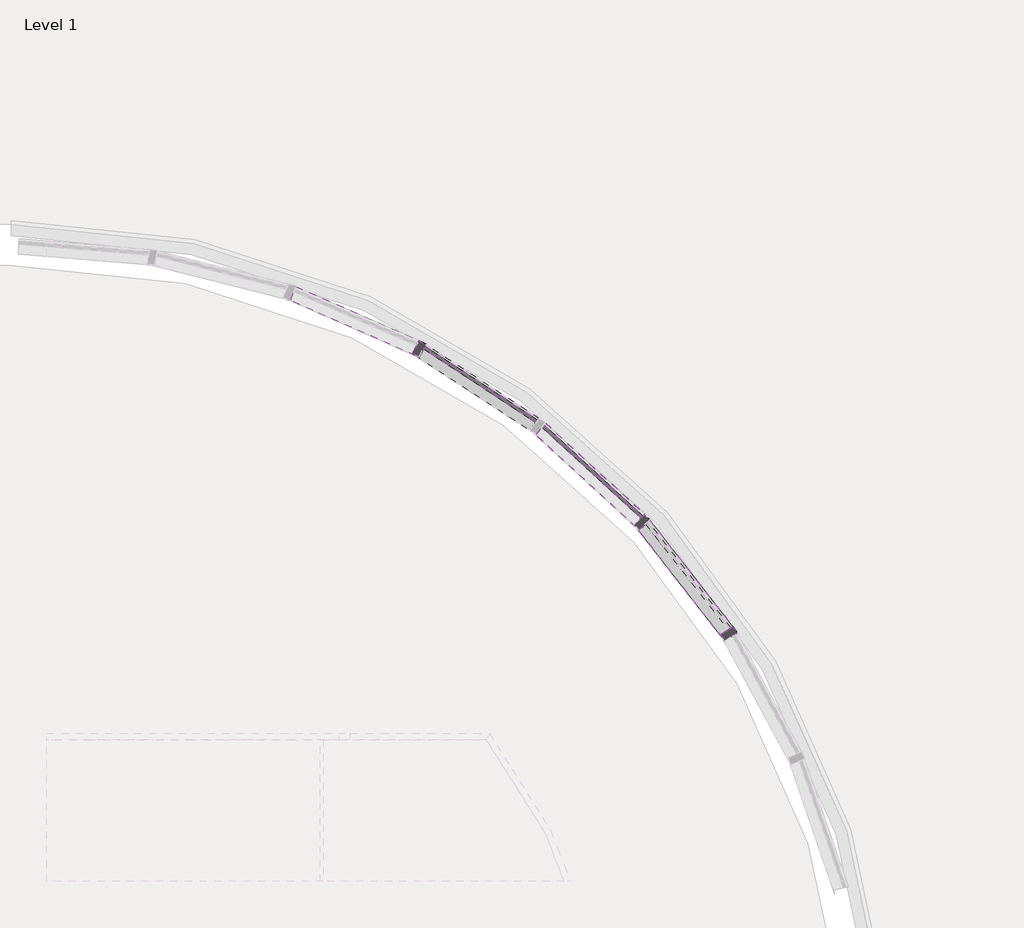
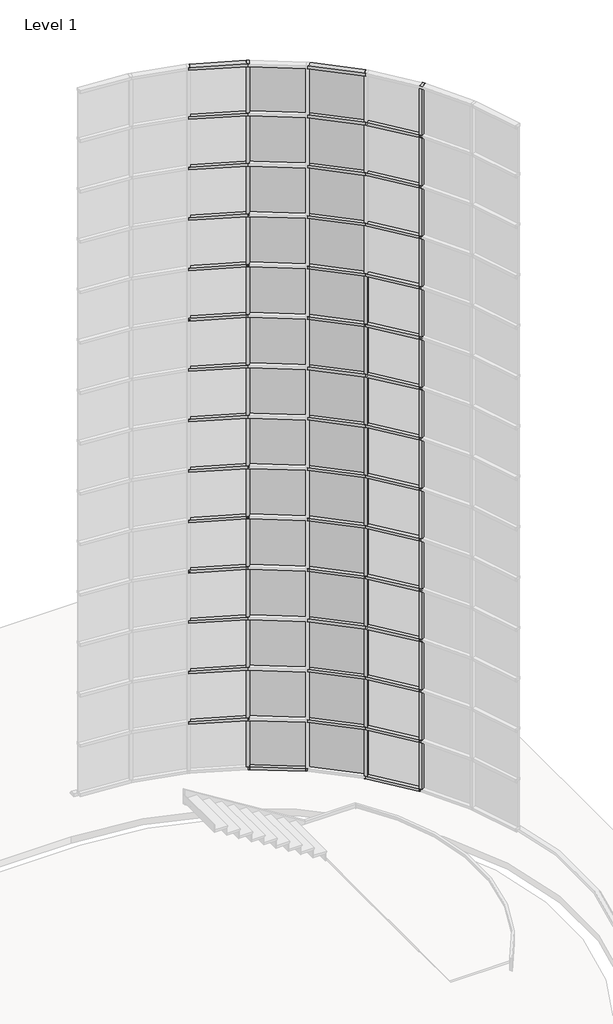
# One storey, part 13 of 20: 81 members, 28 plates.
"""IFC4 building model written with IfcOpenShell, lengths in millimetres."""

from ifc_helpers import new_model, si_unit, origin, place, context, project, spatial, transform, mapped, element, save
from components import member_68fe8548, member_f830fa99, member_935f61b8, system_panel_glazed_da602fa6, system_panel_glazed_77fd207e

model = new_model("IFC4")

# Units and contexts
model_context = context("Model", 3, world=origin())
ifc_project = project(units=[si_unit("LENGTHUNIT", "METRE", prefix="MILLI")], contexts=[model_context])

# Site, building, storey
site = spatial("IfcSite", under=ifc_project)
building = spatial("IfcBuilding", under=site)
storey = spatial("IfcBuildingStorey", under=building, Name="Level 1", Elevation=0.0)

# Members
placement = place(None, origin())
member_shape = member_68fe8548(model_context)
element("IfcMember", 1, ObjectType="Rectangular Mullion : 2.5\" x 5\" rectangular", at=placement, inside=storey, context=model_context, shape_type="MappedRepresentation", body=[
    mapped(member_shape, transform((21306.6406628, 3785.4957758, 17983.2), x_axis=(0.0, 0.0, 1.0), y_axis=(-0.40169542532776, -0.9157733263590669, 0.0), z_axis=(0.9157733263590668, -0.4016954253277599, 0.0))),
])
element("IfcMember", 2, ObjectType="Rectangular Mullion : 2.5\" x 5\" rectangular", at=placement, inside=storey, context=model_context, shape_type="MappedRepresentation", body=[
    mapped(member_shape, transform((23166.898542, 2350.7981932, 17983.2), x_axis=(0.0, 0.0, 1.0), y_axis=(-0.6772815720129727, -0.7357239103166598, 0.0), z_axis=(0.7357239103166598, -0.6772815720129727, 0.0))),
])
element("IfcMember", 3, ObjectType="Rectangular Mullion : 2.5\" x 5\" rectangular", at=placement, inside=storey, context=model_context, shape_type="MappedRepresentation", body=[
    mapped(member_shape, transform((21362.2965016, 3755.376342, 1092.2), x_axis=(0.0, 0.0, -1.0), y_axis=(-0.5469481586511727, -0.8371664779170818, 0.0), z_axis=(-0.8371664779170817, 0.5469481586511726, 0.0))),
])
element("IfcMember", 4, ObjectType="Rectangular Mullion : 2.5\" x 5\" rectangular", at=placement, inside=storey, context=model_context, shape_type="MappedRepresentation", body=[
    mapped(member_shape, transform((23209.7590298, 2304.2392921, 1092.2), x_axis=(0.0, 0.0, -1.0), y_axis=(-0.789140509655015, -0.614212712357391, 0.0), z_axis=(-0.614212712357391, 0.789140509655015, 0.0))),
])
member_2_shape = member_f830fa99(model_context)
element("IfcMember", 5, ObjectType="Rectangular Mullion : 2.5\" x 5\" rectangular", at=placement, inside=storey, context=model_context, shape_type="MappedRepresentation", body=[
    mapped(member_2_shape, transform((21306.6406628, 3785.4957758, 2298.7), x_axis=(0.0, 0.0, 1.0), y_axis=(-0.40169542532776, -0.9157733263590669, 0.0), z_axis=(0.9157733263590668, -0.4016954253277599, 0.0))),
])
element("IfcMember", 6, ObjectType="Rectangular Mullion : 2.5\" x 5\" rectangular", at=placement, inside=storey, context=model_context, shape_type="MappedRepresentation", body=[
    mapped(member_2_shape, transform((23166.898542, 2350.7981932, 2298.7), x_axis=(0.0, 0.0, 1.0), y_axis=(-0.6772815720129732, -0.7357239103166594, 0.0), z_axis=(0.7357239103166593, -0.6772815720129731, 0.0))),
])
element("IfcMember", 7, ObjectType="Rectangular Mullion : 2.5\" x 5\" rectangular", at=placement, inside=storey, context=model_context, shape_type="MappedRepresentation", body=[
    mapped(member_2_shape, transform((23894.9537437, 1423.9011049, 2298.7), x_axis=(0.0, 0.0, 1.0), y_axis=(-0.7891405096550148, -0.6142127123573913, 0.0), z_axis=(0.6142127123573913, -0.7891405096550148, 0.0))),
])
element("IfcMember", 8, ObjectType="Rectangular Mullion : 2.5\" x 5\" rectangular", at=placement, inside=storey, context=model_context, shape_type="MappedRepresentation", body=[
    mapped(member_2_shape, transform((21306.6406628, 3785.4957758, 3505.2), x_axis=(0.0, 0.0, 1.0), y_axis=(-0.40169542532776, -0.9157733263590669, 0.0), z_axis=(0.9157733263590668, -0.4016954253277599, 0.0))),
])
element("IfcMember", 9, ObjectType="Rectangular Mullion : 2.5\" x 5\" rectangular", at=placement, inside=storey, context=model_context, shape_type="MappedRepresentation", body=[
    mapped(member_2_shape, transform((23166.898542, 2350.7981932, 3505.2), x_axis=(0.0, 0.0, 1.0), y_axis=(-0.6772815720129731, -0.7357239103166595, 0.0), z_axis=(0.7357239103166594, -0.677281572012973, 0.0))),
])
element("IfcMember", 10, ObjectType="Rectangular Mullion : 2.5\" x 5\" rectangular", at=placement, inside=storey, context=model_context, shape_type="MappedRepresentation", body=[
    mapped(member_2_shape, transform((23894.9537437, 1423.9011049, 3505.2), x_axis=(0.0, 0.0, 1.0), y_axis=(-0.7891405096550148, -0.6142127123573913, 0.0), z_axis=(0.6142127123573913, -0.7891405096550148, 0.0))),
])
element("IfcMember", 11, ObjectType="Rectangular Mullion : 2.5\" x 5\" rectangular", at=placement, inside=storey, context=model_context, shape_type="MappedRepresentation", body=[
    mapped(member_2_shape, transform((21306.6406628, 3785.4957758, 4711.7), x_axis=(0.0, 0.0, 1.0), y_axis=(-0.40169542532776, -0.9157733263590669, 0.0), z_axis=(0.9157733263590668, -0.4016954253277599, 0.0))),
])
element("IfcMember", 12, ObjectType="Rectangular Mullion : 2.5\" x 5\" rectangular", at=placement, inside=storey, context=model_context, shape_type="MappedRepresentation", body=[
    mapped(member_2_shape, transform((23166.898542, 2350.7981932, 4711.7), x_axis=(0.0, 0.0, 1.0), y_axis=(-0.6772815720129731, -0.7357239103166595, 0.0), z_axis=(0.7357239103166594, -0.677281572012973, 0.0))),
])
element("IfcMember", 13, ObjectType="Rectangular Mullion : 2.5\" x 5\" rectangular", at=placement, inside=storey, context=model_context, shape_type="MappedRepresentation", body=[
    mapped(member_2_shape, transform((23894.9537437, 1423.9011049, 4711.7), x_axis=(0.0, 0.0, 1.0), y_axis=(-0.7891405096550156, -0.6142127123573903, 0.0), z_axis=(0.6142127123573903, -0.7891405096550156, 0.0))),
])
element("IfcMember", 14, ObjectType="Rectangular Mullion : 2.5\" x 5\" rectangular", at=placement, inside=storey, context=model_context, shape_type="MappedRepresentation", body=[
    mapped(member_2_shape, transform((21306.6406628, 3785.4957758, 5918.2), x_axis=(0.0, 0.0, 1.0), y_axis=(-0.40169542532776, -0.9157733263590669, 0.0), z_axis=(0.9157733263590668, -0.4016954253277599, 0.0))),
])
element("IfcMember", 15, ObjectType="Rectangular Mullion : 2.5\" x 5\" rectangular", at=placement, inside=storey, context=model_context, shape_type="MappedRepresentation", body=[
    mapped(member_2_shape, transform((23166.898542, 2350.7981932, 5918.2), x_axis=(0.0, 0.0, 1.0), y_axis=(-0.6772815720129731, -0.7357239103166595, 0.0), z_axis=(0.7357239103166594, -0.677281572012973, 0.0))),
])
element("IfcMember", 16, ObjectType="Rectangular Mullion : 2.5\" x 5\" rectangular", at=placement, inside=storey, context=model_context, shape_type="MappedRepresentation", body=[
    mapped(member_2_shape, transform((23894.9537437, 1423.9011049, 5918.2), x_axis=(0.0, 0.0, 1.0), y_axis=(-0.7891405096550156, -0.6142127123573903, 0.0), z_axis=(0.6142127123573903, -0.7891405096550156, 0.0))),
])
element("IfcMember", 17, ObjectType="Rectangular Mullion : 2.5\" x 5\" rectangular", at=placement, inside=storey, context=model_context, shape_type="MappedRepresentation", body=[
    mapped(member_2_shape, transform((21306.6406628, 3785.4957758, 7124.7), x_axis=(0.0, 0.0, 1.0), y_axis=(-0.40169542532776, -0.9157733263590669, 0.0), z_axis=(0.9157733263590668, -0.4016954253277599, 0.0))),
])
element("IfcMember", 18, ObjectType="Rectangular Mullion : 2.5\" x 5\" rectangular", at=placement, inside=storey, context=model_context, shape_type="MappedRepresentation", body=[
    mapped(member_2_shape, transform((23166.898542, 2350.7981932, 7124.7), x_axis=(0.0, 0.0, 1.0), y_axis=(-0.6772815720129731, -0.7357239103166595, 0.0), z_axis=(0.7357239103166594, -0.677281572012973, 0.0))),
])
element("IfcMember", 19, ObjectType="Rectangular Mullion : 2.5\" x 5\" rectangular", at=placement, inside=storey, context=model_context, shape_type="MappedRepresentation", body=[
    mapped(member_2_shape, transform((23894.9537437, 1423.9011049, 7124.7), x_axis=(0.0, 0.0, 1.0), y_axis=(-0.7891405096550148, -0.6142127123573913, 0.0), z_axis=(0.6142127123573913, -0.7891405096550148, 0.0))),
])
element("IfcMember", 20, ObjectType="Rectangular Mullion : 2.5\" x 5\" rectangular", at=placement, inside=storey, context=model_context, shape_type="MappedRepresentation", body=[
    mapped(member_2_shape, transform((21306.6406628, 3785.4957758, 8331.2), x_axis=(0.0, 0.0, 1.0), y_axis=(-0.40169542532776, -0.9157733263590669, 0.0), z_axis=(0.9157733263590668, -0.4016954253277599, 0.0))),
])
element("IfcMember", 21, ObjectType="Rectangular Mullion : 2.5\" x 5\" rectangular", at=placement, inside=storey, context=model_context, shape_type="MappedRepresentation", body=[
    mapped(member_2_shape, transform((23166.898542, 2350.7981932, 8331.2), x_axis=(0.0, 0.0, 1.0), y_axis=(-0.6772815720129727, -0.7357239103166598, 0.0), z_axis=(0.7357239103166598, -0.6772815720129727, 0.0))),
])
element("IfcMember", 22, ObjectType="Rectangular Mullion : 2.5\" x 5\" rectangular", at=placement, inside=storey, context=model_context, shape_type="MappedRepresentation", body=[
    mapped(member_2_shape, transform((23894.9537437, 1423.9011049, 8331.2), x_axis=(0.0, 0.0, 1.0), y_axis=(-0.7891405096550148, -0.6142127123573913, 0.0), z_axis=(0.6142127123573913, -0.7891405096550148, 0.0))),
])
element("IfcMember", 23, ObjectType="Rectangular Mullion : 2.5\" x 5\" rectangular", at=placement, inside=storey, context=model_context, shape_type="MappedRepresentation", body=[
    mapped(member_2_shape, transform((21306.6406628, 3785.4957758, 9537.7), x_axis=(0.0, 0.0, 1.0), y_axis=(-0.40169542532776, -0.9157733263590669, 0.0), z_axis=(0.9157733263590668, -0.4016954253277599, 0.0))),
])
element("IfcMember", 24, ObjectType="Rectangular Mullion : 2.5\" x 5\" rectangular", at=placement, inside=storey, context=model_context, shape_type="MappedRepresentation", body=[
    mapped(member_2_shape, transform((23166.898542, 2350.7981932, 9537.7), x_axis=(0.0, 0.0, 1.0), y_axis=(-0.6772815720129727, -0.7357239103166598, 0.0), z_axis=(0.7357239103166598, -0.6772815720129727, 0.0))),
])
element("IfcMember", 25, ObjectType="Rectangular Mullion : 2.5\" x 5\" rectangular", at=placement, inside=storey, context=model_context, shape_type="MappedRepresentation", body=[
    mapped(member_2_shape, transform((23894.9537437, 1423.9011049, 9537.7), x_axis=(0.0, 0.0, 1.0), y_axis=(-0.7891405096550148, -0.6142127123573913, 0.0), z_axis=(0.6142127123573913, -0.7891405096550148, 0.0))),
])
element("IfcMember", 26, ObjectType="Rectangular Mullion : 2.5\" x 5\" rectangular", at=placement, inside=storey, context=model_context, shape_type="MappedRepresentation", body=[
    mapped(member_2_shape, transform((21306.6406628, 3785.4957758, 10744.2), x_axis=(0.0, 0.0, 1.0), y_axis=(-0.40169542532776, -0.9157733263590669, 0.0), z_axis=(0.9157733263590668, -0.4016954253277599, 0.0))),
])
element("IfcMember", 27, ObjectType="Rectangular Mullion : 2.5\" x 5\" rectangular", at=placement, inside=storey, context=model_context, shape_type="MappedRepresentation", body=[
    mapped(member_2_shape, transform((23166.898542, 2350.7981932, 10744.2), x_axis=(0.0, 0.0, 1.0), y_axis=(-0.677281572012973, -0.7357239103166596, 0.0), z_axis=(0.7357239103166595, -0.6772815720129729, 0.0))),
])
element("IfcMember", 28, ObjectType="Rectangular Mullion : 2.5\" x 5\" rectangular", at=placement, inside=storey, context=model_context, shape_type="MappedRepresentation", body=[
    mapped(member_2_shape, transform((23894.9537437, 1423.9011049, 10744.2), x_axis=(0.0, 0.0, 1.0), y_axis=(-0.7891405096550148, -0.6142127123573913, 0.0), z_axis=(0.6142127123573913, -0.7891405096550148, 0.0))),
])
element("IfcMember", 29, ObjectType="Rectangular Mullion : 2.5\" x 5\" rectangular", at=placement, inside=storey, context=model_context, shape_type="MappedRepresentation", body=[
    mapped(member_2_shape, transform((21306.6406628, 3785.4957758, 11950.7), x_axis=(0.0, 0.0, 1.0), y_axis=(-0.40169542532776, -0.9157733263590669, 0.0), z_axis=(0.9157733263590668, -0.4016954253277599, 0.0))),
])
element("IfcMember", 30, ObjectType="Rectangular Mullion : 2.5\" x 5\" rectangular", at=placement, inside=storey, context=model_context, shape_type="MappedRepresentation", body=[
    mapped(member_2_shape, transform((23166.898542, 2350.7981932, 11950.7), x_axis=(0.0, 0.0, 1.0), y_axis=(-0.6772815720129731, -0.7357239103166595, 0.0), z_axis=(0.7357239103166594, -0.677281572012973, 0.0))),
])
element("IfcMember", 31, ObjectType="Rectangular Mullion : 2.5\" x 5\" rectangular", at=placement, inside=storey, context=model_context, shape_type="MappedRepresentation", body=[
    mapped(member_2_shape, transform((23894.9537437, 1423.9011049, 11950.7), x_axis=(0.0, 0.0, 1.0), y_axis=(-0.7891405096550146, -0.6142127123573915, 0.0), z_axis=(0.6142127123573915, -0.7891405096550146, 0.0))),
])
element("IfcMember", 32, ObjectType="Rectangular Mullion : 2.5\" x 5\" rectangular", at=placement, inside=storey, context=model_context, shape_type="MappedRepresentation", body=[
    mapped(member_2_shape, transform((21306.6406628, 3785.4957758, 13157.2), x_axis=(0.0, 0.0, 1.0), y_axis=(-0.40169542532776, -0.9157733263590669, 0.0), z_axis=(0.9157733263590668, -0.4016954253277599, 0.0))),
])
element("IfcMember", 33, ObjectType="Rectangular Mullion : 2.5\" x 5\" rectangular", at=placement, inside=storey, context=model_context, shape_type="MappedRepresentation", body=[
    mapped(member_2_shape, transform((23166.898542, 2350.7981932, 13157.2), x_axis=(0.0, 0.0, 1.0), y_axis=(-0.6772815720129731, -0.7357239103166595, 0.0), z_axis=(0.7357239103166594, -0.677281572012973, 0.0))),
])
element("IfcMember", 34, ObjectType="Rectangular Mullion : 2.5\" x 5\" rectangular", at=placement, inside=storey, context=model_context, shape_type="MappedRepresentation", body=[
    mapped(member_2_shape, transform((23894.9537437, 1423.9011049, 13157.2), x_axis=(0.0, 0.0, 1.0), y_axis=(-0.7891405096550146, -0.6142127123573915, 0.0), z_axis=(0.6142127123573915, -0.7891405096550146, 0.0))),
])
element("IfcMember", 35, ObjectType="Rectangular Mullion : 2.5\" x 5\" rectangular", at=placement, inside=storey, context=model_context, shape_type="MappedRepresentation", body=[
    mapped(member_2_shape, transform((21306.6406628, 3785.4957758, 14363.7), x_axis=(0.0, 0.0, 1.0), y_axis=(-0.40169542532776, -0.9157733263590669, 0.0), z_axis=(0.9157733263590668, -0.4016954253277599, 0.0))),
])
element("IfcMember", 36, ObjectType="Rectangular Mullion : 2.5\" x 5\" rectangular", at=placement, inside=storey, context=model_context, shape_type="MappedRepresentation", body=[
    mapped(member_2_shape, transform((23166.898542, 2350.7981932, 14363.7), x_axis=(0.0, 0.0, 1.0), y_axis=(-0.6772815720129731, -0.7357239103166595, 0.0), z_axis=(0.7357239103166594, -0.677281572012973, 0.0))),
])
element("IfcMember", 37, ObjectType="Rectangular Mullion : 2.5\" x 5\" rectangular", at=placement, inside=storey, context=model_context, shape_type="MappedRepresentation", body=[
    mapped(member_2_shape, transform((23894.9537437, 1423.9011049, 14363.7), x_axis=(0.0, 0.0, 1.0), y_axis=(-0.7891405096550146, -0.6142127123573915, 0.0), z_axis=(0.6142127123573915, -0.7891405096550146, 0.0))),
])
element("IfcMember", 38, ObjectType="Rectangular Mullion : 2.5\" x 5\" rectangular", at=placement, inside=storey, context=model_context, shape_type="MappedRepresentation", body=[
    mapped(member_2_shape, transform((21306.6406628, 3785.4957758, 15570.2), x_axis=(0.0, 0.0, 1.0), y_axis=(-0.40169542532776, -0.9157733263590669, 0.0), z_axis=(0.9157733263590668, -0.4016954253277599, 0.0))),
])
element("IfcMember", 39, ObjectType="Rectangular Mullion : 2.5\" x 5\" rectangular", at=placement, inside=storey, context=model_context, shape_type="MappedRepresentation", body=[
    mapped(member_2_shape, transform((23166.898542, 2350.7981932, 15570.2), x_axis=(0.0, 0.0, 1.0), y_axis=(-0.6772815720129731, -0.7357239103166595, 0.0), z_axis=(0.7357239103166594, -0.677281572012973, 0.0))),
])
element("IfcMember", 40, ObjectType="Rectangular Mullion : 2.5\" x 5\" rectangular", at=placement, inside=storey, context=model_context, shape_type="MappedRepresentation", body=[
    mapped(member_2_shape, transform((23894.9537437, 1423.9011049, 15570.2), x_axis=(0.0, 0.0, 1.0), y_axis=(-0.7891405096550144, -0.6142127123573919, 0.0), z_axis=(0.6142127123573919, -0.7891405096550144, 0.0))),
])
element("IfcMember", 41, ObjectType="Rectangular Mullion : 2.5\" x 5\" rectangular", at=placement, inside=storey, context=model_context, shape_type="MappedRepresentation", body=[
    mapped(member_2_shape, transform((21306.6406628, 3785.4957758, 16776.7), x_axis=(0.0, 0.0, 1.0), y_axis=(-0.40169542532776, -0.9157733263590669, 0.0), z_axis=(0.9157733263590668, -0.4016954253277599, 0.0))),
])
element("IfcMember", 42, ObjectType="Rectangular Mullion : 2.5\" x 5\" rectangular", at=placement, inside=storey, context=model_context, shape_type="MappedRepresentation", body=[
    mapped(member_2_shape, transform((23166.898542, 2350.7981932, 16776.7), x_axis=(0.0, 0.0, 1.0), y_axis=(-0.6772815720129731, -0.7357239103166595, 0.0), z_axis=(0.7357239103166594, -0.677281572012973, 0.0))),
])
element("IfcMember", 43, ObjectType="Rectangular Mullion : 2.5\" x 5\" rectangular", at=placement, inside=storey, context=model_context, shape_type="MappedRepresentation", body=[
    mapped(member_2_shape, transform((23894.9537437, 1423.9011049, 16776.7), x_axis=(0.0, 0.0, 1.0), y_axis=(-0.7891405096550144, -0.6142127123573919, 0.0), z_axis=(0.6142127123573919, -0.7891405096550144, 0.0))),
])
member_3_shape = member_935f61b8(model_context)
element("IfcMember", 44, ObjectType="Rectangular Mullion : 2.5\" x 5\" rectangular", at=placement, inside=storey, context=model_context, shape_type="MappedRepresentation", body=[
    mapped(member_3_shape, transform((21335.7164659, 3772.741946, 1092.2), x_axis=(0.8794737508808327, -0.4759473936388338, 0.0), y_axis=(-0.4759473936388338, -0.8794737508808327, 0.0), z_axis=(0.0, 0.0, -1.0))),
])
element("IfcMember", 45, ObjectType="Rectangular Mullion : 2.5\" x 5\" rectangular", at=placement, inside=storey, context=model_context, shape_type="MappedRepresentation", body=[
    mapped(member_3_shape, transform((23190.2577761, 2329.2945033, 1092.2), x_axis=(0.6772815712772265, -0.7357239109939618, 0.0), y_axis=(-0.7357239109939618, -0.6772815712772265, 0.0), z_axis=(0.0, 0.0, -1.0))),
])
element("IfcMember", 46, ObjectType="Rectangular Mullion : 2.5\" x 5\" rectangular", at=placement, inside=storey, context=model_context, shape_type="MappedRepresentation", body=[
    mapped(member_3_shape, transform((23914.4549973, 1398.8458937, 1092.2), x_axis=(0.5469481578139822, -0.8371664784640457, 0.0), y_axis=(-0.8371664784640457, -0.5469481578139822, 0.0), z_axis=(0.0, 0.0, -1.0))),
])
element("IfcMember", 47, ObjectType="Rectangular Mullion : 2.5\" x 5\" rectangular", at=placement, inside=storey, context=model_context, shape_type="MappedRepresentation", body=[
    mapped(member_3_shape, transform((21335.7164659, 3772.741946, 2298.7), x_axis=(0.8794737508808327, -0.4759473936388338, 0.0), y_axis=(-0.4759473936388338, -0.8794737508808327, 0.0), z_axis=(0.0, 0.0, -1.0))),
])
element("IfcMember", 48, ObjectType="Rectangular Mullion : 2.5\" x 5\" rectangular", at=placement, inside=storey, context=model_context, shape_type="MappedRepresentation", body=[
    mapped(member_3_shape, transform((23190.2577761, 2329.2945033, 2298.7), x_axis=(0.6772815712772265, -0.7357239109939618, 0.0), y_axis=(-0.7357239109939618, -0.6772815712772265, 0.0), z_axis=(0.0, 0.0, -1.0))),
])
element("IfcMember", 49, ObjectType="Rectangular Mullion : 2.5\" x 5\" rectangular", at=placement, inside=storey, context=model_context, shape_type="MappedRepresentation", body=[
    mapped(member_3_shape, transform((23914.4549973, 1398.8458937, 2298.7), x_axis=(0.5469481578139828, -0.8371664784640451, 0.0), y_axis=(-0.8371664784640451, -0.5469481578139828, 0.0), z_axis=(0.0, 0.0, -1.0))),
])
element("IfcMember", 50, ObjectType="Rectangular Mullion : 2.5\" x 5\" rectangular", at=placement, inside=storey, context=model_context, shape_type="MappedRepresentation", body=[
    mapped(member_3_shape, transform((21335.7164659, 3772.741946, 3505.2), x_axis=(0.8794737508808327, -0.4759473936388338, 0.0), y_axis=(-0.4759473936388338, -0.8794737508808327, 0.0), z_axis=(0.0, 0.0, -1.0))),
])
element("IfcMember", 51, ObjectType="Rectangular Mullion : 2.5\" x 5\" rectangular", at=placement, inside=storey, context=model_context, shape_type="MappedRepresentation", body=[
    mapped(member_3_shape, transform((23190.2577761, 2329.2945033, 3505.2), x_axis=(0.6772815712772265, -0.7357239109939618, 0.0), y_axis=(-0.7357239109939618, -0.6772815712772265, 0.0), z_axis=(0.0, 0.0, -1.0))),
])
element("IfcMember", 52, ObjectType="Rectangular Mullion : 2.5\" x 5\" rectangular", at=placement, inside=storey, context=model_context, shape_type="MappedRepresentation", body=[
    mapped(member_3_shape, transform((23914.4549973, 1398.8458937, 3505.2), x_axis=(0.5469481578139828, -0.8371664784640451, 0.0), y_axis=(-0.8371664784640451, -0.5469481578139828, 0.0), z_axis=(0.0, 0.0, -1.0))),
])
element("IfcMember", 53, ObjectType="Rectangular Mullion : 2.5\" x 5\" rectangular", at=placement, inside=storey, context=model_context, shape_type="MappedRepresentation", body=[
    mapped(member_3_shape, transform((21335.7164659, 3772.741946, 4711.7), x_axis=(0.8794737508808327, -0.4759473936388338, 0.0), y_axis=(-0.4759473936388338, -0.8794737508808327, 0.0), z_axis=(0.0, 0.0, -1.0))),
])
element("IfcMember", 54, ObjectType="Rectangular Mullion : 2.5\" x 5\" rectangular", at=placement, inside=storey, context=model_context, shape_type="MappedRepresentation", body=[
    mapped(member_3_shape, transform((23190.2577761, 2329.2945033, 4711.7), x_axis=(0.6772815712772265, -0.7357239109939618, 0.0), y_axis=(-0.7357239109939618, -0.6772815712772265, 0.0), z_axis=(0.0, 0.0, -1.0))),
])
element("IfcMember", 55, ObjectType="Rectangular Mullion : 2.5\" x 5\" rectangular", at=placement, inside=storey, context=model_context, shape_type="MappedRepresentation", body=[
    mapped(member_3_shape, transform((23914.4549973, 1398.8458937, 4711.7), x_axis=(0.5469481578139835, -0.8371664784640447, 0.0), y_axis=(-0.8371664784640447, -0.5469481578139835, 0.0), z_axis=(0.0, 0.0, -1.0))),
])
element("IfcMember", 56, ObjectType="Rectangular Mullion : 2.5\" x 5\" rectangular", at=placement, inside=storey, context=model_context, shape_type="MappedRepresentation", body=[
    mapped(member_3_shape, transform((21335.7164659, 3772.741946, 5918.2), x_axis=(0.8794737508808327, -0.4759473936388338, 0.0), y_axis=(-0.4759473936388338, -0.8794737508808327, 0.0), z_axis=(0.0, 0.0, -1.0))),
])
element("IfcMember", 57, ObjectType="Rectangular Mullion : 2.5\" x 5\" rectangular", at=placement, inside=storey, context=model_context, shape_type="MappedRepresentation", body=[
    mapped(member_3_shape, transform((23190.2577761, 2329.2945033, 5918.2), x_axis=(0.6772815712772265, -0.7357239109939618, 0.0), y_axis=(-0.7357239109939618, -0.6772815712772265, 0.0), z_axis=(0.0, 0.0, -1.0))),
])
element("IfcMember", 58, ObjectType="Rectangular Mullion : 2.5\" x 5\" rectangular", at=placement, inside=storey, context=model_context, shape_type="MappedRepresentation", body=[
    mapped(member_3_shape, transform((23914.4549973, 1398.8458937, 5918.2), x_axis=(0.5469481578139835, -0.8371664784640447, 0.0), y_axis=(-0.8371664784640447, -0.5469481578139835, 0.0), z_axis=(0.0, 0.0, -1.0))),
])
element("IfcMember", 59, ObjectType="Rectangular Mullion : 2.5\" x 5\" rectangular", at=placement, inside=storey, context=model_context, shape_type="MappedRepresentation", body=[
    mapped(member_3_shape, transform((21335.7164659, 3772.741946, 7124.7), x_axis=(0.8794737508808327, -0.4759473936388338, 0.0), y_axis=(-0.4759473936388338, -0.8794737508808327, 0.0), z_axis=(0.0, 0.0, -1.0))),
])
element("IfcMember", 60, ObjectType="Rectangular Mullion : 2.5\" x 5\" rectangular", at=placement, inside=storey, context=model_context, shape_type="MappedRepresentation", body=[
    mapped(member_3_shape, transform((23190.2577761, 2329.2945033, 7124.7), x_axis=(0.6772815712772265, -0.7357239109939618, 0.0), y_axis=(-0.7357239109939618, -0.6772815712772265, 0.0), z_axis=(0.0, 0.0, -1.0))),
])
element("IfcMember", 61, ObjectType="Rectangular Mullion : 2.5\" x 5\" rectangular", at=placement, inside=storey, context=model_context, shape_type="MappedRepresentation", body=[
    mapped(member_3_shape, transform((23914.4549973, 1398.8458937, 7124.7), x_axis=(0.5469481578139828, -0.8371664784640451, 0.0), y_axis=(-0.8371664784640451, -0.5469481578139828, 0.0), z_axis=(0.0, 0.0, -1.0))),
])
element("IfcMember", 62, ObjectType="Rectangular Mullion : 2.5\" x 5\" rectangular", at=placement, inside=storey, context=model_context, shape_type="MappedRepresentation", body=[
    mapped(member_3_shape, transform((21335.7164659, 3772.741946, 8331.2), x_axis=(0.8794737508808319, -0.4759473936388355, 0.0), y_axis=(-0.4759473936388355, -0.8794737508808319, 0.0), z_axis=(0.0, 0.0, -1.0))),
])
element("IfcMember", 63, ObjectType="Rectangular Mullion : 2.5\" x 5\" rectangular", at=placement, inside=storey, context=model_context, shape_type="MappedRepresentation", body=[
    mapped(member_3_shape, transform((23190.2577761, 2329.2945033, 8331.2), x_axis=(0.6772815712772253, -0.7357239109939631, 0.0), y_axis=(-0.7357239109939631, -0.6772815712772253, 0.0), z_axis=(0.0, 0.0, -1.0))),
])
element("IfcMember", 64, ObjectType="Rectangular Mullion : 2.5\" x 5\" rectangular", at=placement, inside=storey, context=model_context, shape_type="MappedRepresentation", body=[
    mapped(member_3_shape, transform((23914.4549973, 1398.8458937, 8331.2), x_axis=(0.5469481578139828, -0.8371664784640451, 0.0), y_axis=(-0.8371664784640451, -0.5469481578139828, 0.0), z_axis=(0.0, 0.0, -1.0))),
])
element("IfcMember", 65, ObjectType="Rectangular Mullion : 2.5\" x 5\" rectangular", at=placement, inside=storey, context=model_context, shape_type="MappedRepresentation", body=[
    mapped(member_3_shape, transform((21335.7164659, 3772.741946, 9537.7), x_axis=(0.8794737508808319, -0.4759473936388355, 0.0), y_axis=(-0.4759473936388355, -0.8794737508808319, 0.0), z_axis=(0.0, 0.0, -1.0))),
])
element("IfcMember", 66, ObjectType="Rectangular Mullion : 2.5\" x 5\" rectangular", at=placement, inside=storey, context=model_context, shape_type="MappedRepresentation", body=[
    mapped(member_3_shape, transform((23190.2577761, 2329.2945033, 9537.7), x_axis=(0.6772815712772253, -0.7357239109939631, 0.0), y_axis=(-0.7357239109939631, -0.6772815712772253, 0.0), z_axis=(0.0, 0.0, -1.0))),
])
element("IfcMember", 67, ObjectType="Rectangular Mullion : 2.5\" x 5\" rectangular", at=placement, inside=storey, context=model_context, shape_type="MappedRepresentation", body=[
    mapped(member_3_shape, transform((23914.4549973, 1398.8458937, 9537.7), x_axis=(0.5469481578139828, -0.8371664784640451, 0.0), y_axis=(-0.8371664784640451, -0.5469481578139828, 0.0), z_axis=(0.0, 0.0, -1.0))),
])
element("IfcMember", 68, ObjectType="Rectangular Mullion : 2.5\" x 5\" rectangular", at=placement, inside=storey, context=model_context, shape_type="MappedRepresentation", body=[
    mapped(member_3_shape, transform((21335.7164659, 3772.741946, 10744.2), x_axis=(0.8794737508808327, -0.4759473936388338, 0.0), y_axis=(-0.4759473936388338, -0.8794737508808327, 0.0), z_axis=(0.0, 0.0, -1.0))),
])
element("IfcMember", 69, ObjectType="Rectangular Mullion : 2.5\" x 5\" rectangular", at=placement, inside=storey, context=model_context, shape_type="MappedRepresentation", body=[
    mapped(member_3_shape, transform((23190.2577761, 2329.2945033, 10744.2), x_axis=(0.6772815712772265, -0.7357239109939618, 0.0), y_axis=(-0.7357239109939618, -0.6772815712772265, 0.0), z_axis=(0.0, 0.0, -1.0))),
])
element("IfcMember", 70, ObjectType="Rectangular Mullion : 2.5\" x 5\" rectangular", at=placement, inside=storey, context=model_context, shape_type="MappedRepresentation", body=[
    mapped(member_3_shape, transform((23914.4549973, 1398.8458937, 10744.2), x_axis=(0.5469481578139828, -0.8371664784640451, 0.0), y_axis=(-0.8371664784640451, -0.5469481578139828, 0.0), z_axis=(0.0, 0.0, -1.0))),
])
element("IfcMember", 71, ObjectType="Rectangular Mullion : 2.5\" x 5\" rectangular", at=placement, inside=storey, context=model_context, shape_type="MappedRepresentation", body=[
    mapped(member_3_shape, transform((21335.7164659, 3772.741946, 11950.7), x_axis=(0.8794737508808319, -0.4759473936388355, 0.0), y_axis=(-0.4759473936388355, -0.8794737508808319, 0.0), z_axis=(0.0, 0.0, -1.0))),
])
element("IfcMember", 72, ObjectType="Rectangular Mullion : 2.5\" x 5\" rectangular", at=placement, inside=storey, context=model_context, shape_type="MappedRepresentation", body=[
    mapped(member_3_shape, transform((23190.2577761, 2329.2945033, 11950.7), x_axis=(0.6772815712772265, -0.7357239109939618, 0.0), y_axis=(-0.7357239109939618, -0.6772815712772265, 0.0), z_axis=(0.0, 0.0, -1.0))),
])
element("IfcMember", 73, ObjectType="Rectangular Mullion : 2.5\" x 5\" rectangular", at=placement, inside=storey, context=model_context, shape_type="MappedRepresentation", body=[
    mapped(member_3_shape, transform((23914.4549973, 1398.8458937, 11950.7), x_axis=(0.5469481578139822, -0.8371664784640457, 0.0), y_axis=(-0.8371664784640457, -0.5469481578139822, 0.0), z_axis=(0.0, 0.0, -1.0))),
])
element("IfcMember", 74, ObjectType="Rectangular Mullion : 2.5\" x 5\" rectangular", at=placement, inside=storey, context=model_context, shape_type="MappedRepresentation", body=[
    mapped(member_3_shape, transform((21335.7164659, 3772.741946, 13157.2), x_axis=(0.8794737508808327, -0.4759473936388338, 0.0), y_axis=(-0.4759473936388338, -0.8794737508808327, 0.0), z_axis=(0.0, 0.0, -1.0))),
])
element("IfcMember", 75, ObjectType="Rectangular Mullion : 2.5\" x 5\" rectangular", at=placement, inside=storey, context=model_context, shape_type="MappedRepresentation", body=[
    mapped(member_3_shape, transform((23914.4549973, 1398.8458937, 13157.2), x_axis=(0.5469481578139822, -0.8371664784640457, 0.0), y_axis=(-0.8371664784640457, -0.5469481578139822, 0.0), z_axis=(0.0, 0.0, -1.0))),
])
element("IfcMember", 76, ObjectType="Rectangular Mullion : 2.5\" x 5\" rectangular", at=placement, inside=storey, context=model_context, shape_type="MappedRepresentation", body=[
    mapped(member_3_shape, transform((21335.7164659, 3772.741946, 14363.7), x_axis=(0.8794737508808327, -0.4759473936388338, 0.0), y_axis=(-0.4759473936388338, -0.8794737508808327, 0.0), z_axis=(0.0, 0.0, -1.0))),
])
element("IfcMember", 77, ObjectType="Rectangular Mullion : 2.5\" x 5\" rectangular", at=placement, inside=storey, context=model_context, shape_type="MappedRepresentation", body=[
    mapped(member_3_shape, transform((23914.4549973, 1398.8458937, 14363.7), x_axis=(0.5469481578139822, -0.8371664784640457, 0.0), y_axis=(-0.8371664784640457, -0.5469481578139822, 0.0), z_axis=(0.0, 0.0, -1.0))),
])
element("IfcMember", 78, ObjectType="Rectangular Mullion : 2.5\" x 5\" rectangular", at=placement, inside=storey, context=model_context, shape_type="MappedRepresentation", body=[
    mapped(member_3_shape, transform((21335.7164659, 3772.741946, 15570.2), x_axis=(0.8794737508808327, -0.4759473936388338, 0.0), y_axis=(-0.4759473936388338, -0.8794737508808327, 0.0), z_axis=(0.0, 0.0, -1.0))),
])
element("IfcMember", 79, ObjectType="Rectangular Mullion : 2.5\" x 5\" rectangular", at=placement, inside=storey, context=model_context, shape_type="MappedRepresentation", body=[
    mapped(member_3_shape, transform((23914.4549973, 1398.8458937, 15570.2), x_axis=(0.5469481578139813, -0.8371664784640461, 0.0), y_axis=(-0.8371664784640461, -0.5469481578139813, 0.0), z_axis=(0.0, 0.0, -1.0))),
])
element("IfcMember", 80, ObjectType="Rectangular Mullion : 2.5\" x 5\" rectangular", at=placement, inside=storey, context=model_context, shape_type="MappedRepresentation", body=[
    mapped(member_3_shape, transform((21335.7164659, 3772.741946, 16776.7), x_axis=(0.8794737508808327, -0.4759473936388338, 0.0), y_axis=(-0.4759473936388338, -0.8794737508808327, 0.0), z_axis=(0.0, 0.0, -1.0))),
])
element("IfcMember", 81, ObjectType="Rectangular Mullion : 2.5\" x 5\" rectangular", at=placement, inside=storey, context=model_context, shape_type="MappedRepresentation", body=[
    mapped(member_3_shape, transform((23914.4549973, 1398.8458937, 16776.7), x_axis=(0.5469481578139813, -0.8371664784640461, 0.0), y_axis=(-0.8371664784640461, -0.5469481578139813, 0.0), z_axis=(0.0, 0.0, -1.0))),
])

# Plates
system_panel_glazed_shape = system_panel_glazed_da602fa6(model_context)
element("IfcPlate", 82, ObjectType="System Panel : Glazed", at=placement, inside=storey, context=model_context, shape_type="MappedRepresentation", body=[
    mapped(system_panel_glazed_shape, transform((21829.2536598, 3450.2980039, 1155.7), x_axis=(0.8371664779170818, -0.5469481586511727, 0.0), y_axis=(0.5469481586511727, 0.8371664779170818, 0.0), z_axis=(0.0, 0.0, 1.0))),
])
element("IfcPlate", 83, ObjectType="System Panel : Glazed", at=placement, inside=storey, context=model_context, shape_type="MappedRepresentation", body=[
    mapped(system_panel_glazed_shape, transform((22756.5243149, 2728.5742825, 1155.7), x_axis=(0.7357239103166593, -0.6772815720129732, 0.0), y_axis=(0.6772815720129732, 0.7357239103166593, 0.0), z_axis=(0.0, 0.0, 1.0))),
])
element("IfcPlate", 84, ObjectType="System Panel : Glazed", at=placement, inside=storey, context=model_context, shape_type="MappedRepresentation", body=[
    mapped(system_panel_glazed_shape, transform((21829.2536598, 3450.2980039, 16808.45), x_axis=(0.8371664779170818, -0.5469481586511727, 0.0), y_axis=(0.5469481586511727, 0.8371664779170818, 0.0), z_axis=(0.0, 0.0, 1.0))),
])
element("IfcPlate", 85, ObjectType="System Panel : Glazed", at=placement, inside=storey, context=model_context, shape_type="MappedRepresentation", body=[
    mapped(system_panel_glazed_shape, transform((22756.5243149, 2728.5742825, 16808.45), x_axis=(0.7357239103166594, -0.6772815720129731, 0.0), y_axis=(0.6772815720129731, 0.7357239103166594, 0.0), z_axis=(0.0, 0.0, 1.0))),
])
system_panel_glazed_2_shape = system_panel_glazed_77fd207e(model_context)
element("IfcPlate", 86, ObjectType="System Panel : Glazed", at=placement, inside=storey, context=model_context, shape_type="MappedRepresentation", body=[
    mapped(system_panel_glazed_2_shape, transform((21829.2536598, 3450.2980039, 2330.45), x_axis=(0.8371664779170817, -0.5469481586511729, 0.0), y_axis=(0.5469481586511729, 0.8371664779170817, 0.0), z_axis=(0.0, 0.0, 1.0))),
])
element("IfcPlate", 87, ObjectType="System Panel : Glazed", at=placement, inside=storey, context=model_context, shape_type="MappedRepresentation", body=[
    mapped(system_panel_glazed_2_shape, transform((22756.5243149, 2728.5742825, 2330.45), x_axis=(0.7357239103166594, -0.6772815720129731, 0.0), y_axis=(0.6772815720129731, 0.7357239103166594, 0.0), z_axis=(0.0, 0.0, 1.0))),
])
element("IfcPlate", 88, ObjectType="System Panel : Glazed", at=placement, inside=storey, context=model_context, shape_type="MappedRepresentation", body=[
    mapped(system_panel_glazed_2_shape, transform((21829.2536598, 3450.2980039, 3536.95), x_axis=(0.8371664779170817, -0.5469481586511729, 0.0), y_axis=(0.5469481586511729, 0.8371664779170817, 0.0), z_axis=(0.0, 0.0, 1.0))),
])
element("IfcPlate", 89, ObjectType="System Panel : Glazed", at=placement, inside=storey, context=model_context, shape_type="MappedRepresentation", body=[
    mapped(system_panel_glazed_2_shape, transform((22756.5243149, 2728.5742825, 3536.95), x_axis=(0.7357239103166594, -0.6772815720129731, 0.0), y_axis=(0.6772815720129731, 0.7357239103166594, 0.0), z_axis=(0.0, 0.0, 1.0))),
])
element("IfcPlate", 90, ObjectType="System Panel : Glazed", at=placement, inside=storey, context=model_context, shape_type="MappedRepresentation", body=[
    mapped(system_panel_glazed_2_shape, transform((21829.2536598, 3450.2980039, 4743.45), x_axis=(0.8371664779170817, -0.5469481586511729, 0.0), y_axis=(0.5469481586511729, 0.8371664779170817, 0.0), z_axis=(0.0, 0.0, 1.0))),
])
element("IfcPlate", 91, ObjectType="System Panel : Glazed", at=placement, inside=storey, context=model_context, shape_type="MappedRepresentation", body=[
    mapped(system_panel_glazed_2_shape, transform((22756.5243149, 2728.5742825, 4743.45), x_axis=(0.7357239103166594, -0.6772815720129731, 0.0), y_axis=(0.6772815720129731, 0.7357239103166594, 0.0), z_axis=(0.0, 0.0, 1.0))),
])
element("IfcPlate", 92, ObjectType="System Panel : Glazed", at=placement, inside=storey, context=model_context, shape_type="MappedRepresentation", body=[
    mapped(system_panel_glazed_2_shape, transform((21829.2536598, 3450.2980039, 5949.95), x_axis=(0.8371664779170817, -0.5469481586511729, 0.0), y_axis=(0.5469481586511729, 0.8371664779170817, 0.0), z_axis=(0.0, 0.0, 1.0))),
])
element("IfcPlate", 93, ObjectType="System Panel : Glazed", at=placement, inside=storey, context=model_context, shape_type="MappedRepresentation", body=[
    mapped(system_panel_glazed_2_shape, transform((22756.5243149, 2728.5742825, 5949.95), x_axis=(0.7357239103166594, -0.6772815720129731, 0.0), y_axis=(0.6772815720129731, 0.7357239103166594, 0.0), z_axis=(0.0, 0.0, 1.0))),
])
element("IfcPlate", 94, ObjectType="System Panel : Glazed", at=placement, inside=storey, context=model_context, shape_type="MappedRepresentation", body=[
    mapped(system_panel_glazed_2_shape, transform((21829.2536598, 3450.2980039, 7156.45), x_axis=(0.8371664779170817, -0.5469481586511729, 0.0), y_axis=(0.5469481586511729, 0.8371664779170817, 0.0), z_axis=(0.0, 0.0, 1.0))),
])
element("IfcPlate", 95, ObjectType="System Panel : Glazed", at=placement, inside=storey, context=model_context, shape_type="MappedRepresentation", body=[
    mapped(system_panel_glazed_2_shape, transform((22756.5243149, 2728.5742825, 7156.45), x_axis=(0.7357239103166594, -0.6772815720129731, 0.0), y_axis=(0.6772815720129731, 0.7357239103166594, 0.0), z_axis=(0.0, 0.0, 1.0))),
])
element("IfcPlate", 96, ObjectType="System Panel : Glazed", at=placement, inside=storey, context=model_context, shape_type="MappedRepresentation", body=[
    mapped(system_panel_glazed_2_shape, transform((21829.2536598, 3450.2980039, 8362.95), x_axis=(0.8371664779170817, -0.5469481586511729, 0.0), y_axis=(0.5469481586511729, 0.8371664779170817, 0.0), z_axis=(0.0, 0.0, 1.0))),
])
element("IfcPlate", 97, ObjectType="System Panel : Glazed", at=placement, inside=storey, context=model_context, shape_type="MappedRepresentation", body=[
    mapped(system_panel_glazed_2_shape, transform((22756.5243149, 2728.5742825, 8362.95), x_axis=(0.7357239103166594, -0.6772815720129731, 0.0), y_axis=(0.6772815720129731, 0.7357239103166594, 0.0), z_axis=(0.0, 0.0, 1.0))),
])
element("IfcPlate", 98, ObjectType="System Panel : Glazed", at=placement, inside=storey, context=model_context, shape_type="MappedRepresentation", body=[
    mapped(system_panel_glazed_2_shape, transform((21829.2536598, 3450.2980039, 9569.45), x_axis=(0.8371664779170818, -0.5469481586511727, 0.0), y_axis=(0.5469481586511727, 0.8371664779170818, 0.0), z_axis=(0.0, 0.0, 1.0))),
])
element("IfcPlate", 99, ObjectType="System Panel : Glazed", at=placement, inside=storey, context=model_context, shape_type="MappedRepresentation", body=[
    mapped(system_panel_glazed_2_shape, transform((22756.5243149, 2728.5742825, 9569.45), x_axis=(0.7357239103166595, -0.677281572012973, 0.0), y_axis=(0.677281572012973, 0.7357239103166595, 0.0), z_axis=(0.0, 0.0, 1.0))),
])
element("IfcPlate", 100, ObjectType="System Panel : Glazed", at=placement, inside=storey, context=model_context, shape_type="MappedRepresentation", body=[
    mapped(system_panel_glazed_2_shape, transform((21829.2536598, 3450.2980039, 10775.95), x_axis=(0.8371664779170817, -0.5469481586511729, 0.0), y_axis=(0.5469481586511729, 0.8371664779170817, 0.0), z_axis=(0.0, 0.0, 1.0))),
])
element("IfcPlate", 101, ObjectType="System Panel : Glazed", at=placement, inside=storey, context=model_context, shape_type="MappedRepresentation", body=[
    mapped(system_panel_glazed_2_shape, transform((22756.5243149, 2728.5742825, 10775.95), x_axis=(0.7357239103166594, -0.6772815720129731, 0.0), y_axis=(0.6772815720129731, 0.7357239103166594, 0.0), z_axis=(0.0, 0.0, 1.0))),
])
element("IfcPlate", 102, ObjectType="System Panel : Glazed", at=placement, inside=storey, context=model_context, shape_type="MappedRepresentation", body=[
    mapped(system_panel_glazed_2_shape, transform((21829.2536598, 3450.2980039, 11982.45), x_axis=(0.8371664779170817, -0.5469481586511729, 0.0), y_axis=(0.5469481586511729, 0.8371664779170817, 0.0), z_axis=(0.0, 0.0, 1.0))),
])
element("IfcPlate", 103, ObjectType="System Panel : Glazed", at=placement, inside=storey, context=model_context, shape_type="MappedRepresentation", body=[
    mapped(system_panel_glazed_2_shape, transform((22756.5243149, 2728.5742825, 11982.45), x_axis=(0.7357239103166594, -0.6772815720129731, 0.0), y_axis=(0.6772815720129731, 0.7357239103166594, 0.0), z_axis=(0.0, 0.0, 1.0))),
])
element("IfcPlate", 104, ObjectType="System Panel : Glazed", at=placement, inside=storey, context=model_context, shape_type="MappedRepresentation", body=[
    mapped(system_panel_glazed_2_shape, transform((21829.2536598, 3450.2980039, 13188.95), x_axis=(0.8371664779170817, -0.5469481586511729, 0.0), y_axis=(0.5469481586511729, 0.8371664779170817, 0.0), z_axis=(0.0, 0.0, 1.0))),
])
element("IfcPlate", 105, ObjectType="System Panel : Glazed", at=placement, inside=storey, context=model_context, shape_type="MappedRepresentation", body=[
    mapped(system_panel_glazed_2_shape, transform((22756.5243149, 2728.5742825, 13188.95), x_axis=(0.7357239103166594, -0.6772815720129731, 0.0), y_axis=(0.6772815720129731, 0.7357239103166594, 0.0), z_axis=(0.0, 0.0, 1.0))),
])
element("IfcPlate", 106, ObjectType="System Panel : Glazed", at=placement, inside=storey, context=model_context, shape_type="MappedRepresentation", body=[
    mapped(system_panel_glazed_2_shape, transform((21829.2536598, 3450.2980039, 14395.45), x_axis=(0.8371664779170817, -0.5469481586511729, 0.0), y_axis=(0.5469481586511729, 0.8371664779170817, 0.0), z_axis=(0.0, 0.0, 1.0))),
])
element("IfcPlate", 107, ObjectType="System Panel : Glazed", at=placement, inside=storey, context=model_context, shape_type="MappedRepresentation", body=[
    mapped(system_panel_glazed_2_shape, transform((22756.5243149, 2728.5742825, 14395.45), x_axis=(0.7357239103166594, -0.6772815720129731, 0.0), y_axis=(0.6772815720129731, 0.7357239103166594, 0.0), z_axis=(0.0, 0.0, 1.0))),
])
element("IfcPlate", 108, ObjectType="System Panel : Glazed", at=placement, inside=storey, context=model_context, shape_type="MappedRepresentation", body=[
    mapped(system_panel_glazed_2_shape, transform((21829.2536598, 3450.2980039, 15601.95), x_axis=(0.8371664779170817, -0.5469481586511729, 0.0), y_axis=(0.5469481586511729, 0.8371664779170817, 0.0), z_axis=(0.0, 0.0, 1.0))),
])
element("IfcPlate", 109, ObjectType="System Panel : Glazed", at=placement, inside=storey, context=model_context, shape_type="MappedRepresentation", body=[
    mapped(system_panel_glazed_2_shape, transform((22756.5243149, 2728.5742825, 15601.95), x_axis=(0.7357239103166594, -0.6772815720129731, 0.0), y_axis=(0.6772815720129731, 0.7357239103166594, 0.0), z_axis=(0.0, 0.0, 1.0))),
])

save(model, "model.ifc")
